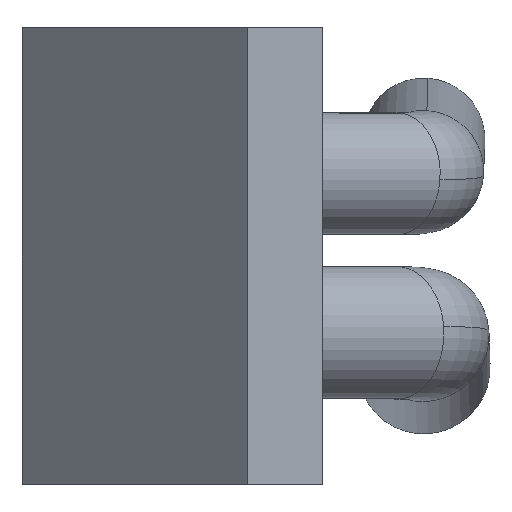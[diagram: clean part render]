
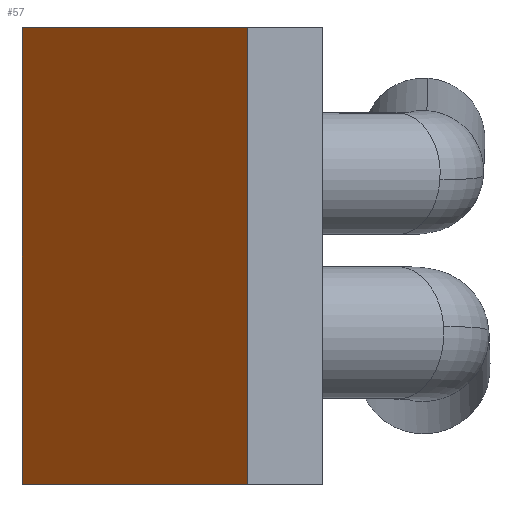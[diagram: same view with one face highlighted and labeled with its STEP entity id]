
A CAD part, left-side view. The second image highlights one B-rep face of the part: STEP entity #57.
In plain terms, the highlighted planar face has unit normal (-0.707, 0.707, 0).
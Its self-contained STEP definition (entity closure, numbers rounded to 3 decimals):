
#57=ADVANCED_FACE('',(#121),#122,.T.);
#121=FACE_OUTER_BOUND('',#191,.T.);
#122=PLANE('',#192);
#191=EDGE_LOOP('',(#290,#291,#292,#293));
#192=AXIS2_PLACEMENT_3D('',#294,#295,#296);
#290=ORIENTED_EDGE('',*,*,#440,.T.);
#291=ORIENTED_EDGE('',*,*,#441,.F.);
#292=ORIENTED_EDGE('',*,*,#442,.T.);
#293=ORIENTED_EDGE('',*,*,#443,.T.);
#294=CARTESIAN_POINT('',(67.508,148.492,0.));
#295=DIRECTION('',(-0.707,0.707,0.));
#296=DIRECTION('',(-0.707,-0.707,0.));
#440=EDGE_CURVE('',#524,#525,#526,.T.);
#441=EDGE_CURVE('',#527,#525,#528,.T.);
#442=EDGE_CURVE('',#527,#529,#530,.T.);
#443=EDGE_CURVE('',#529,#524,#531,.T.);
#524=VERTEX_POINT('',#629);
#525=VERTEX_POINT('',#630);
#526=LINE('',#631,#632);
#527=VERTEX_POINT('',#633);
#528=LINE('',#634,#635);
#529=VERTEX_POINT('',#636);
#530=LINE('',#637,#638);
#531=LINE('',#639,#640);
#629=CARTESIAN_POINT('',(46.294,127.279,86.0));
#630=CARTESIAN_POINT('',(88.721,169.706,86.0));
#631=CARTESIAN_POINT('',(88.721,169.706,86.0));
#632=VECTOR('',#756,1.0);
#633=CARTESIAN_POINT('',(88.721,169.706,0.));
#634=CARTESIAN_POINT('',(88.721,169.706,0.));
#635=VECTOR('',#757,1.0);
#636=CARTESIAN_POINT('',(46.294,127.279,0.));
#637=CARTESIAN_POINT('',(88.721,169.706,0.));
#638=VECTOR('',#758,1.0);
#639=CARTESIAN_POINT('',(46.294,127.279,0.));
#640=VECTOR('',#759,1.0);
#756=DIRECTION('',(0.707,0.707,0.));
#757=DIRECTION('',(0.,0.,1.0));
#758=DIRECTION('',(-0.707,-0.707,0.));
#759=DIRECTION('',(0.,0.,1.0));
